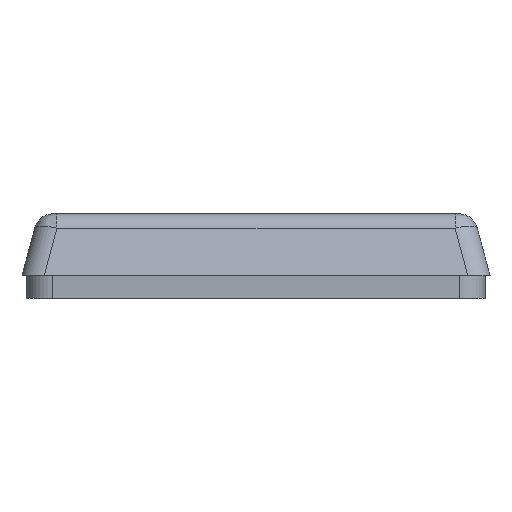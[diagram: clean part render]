
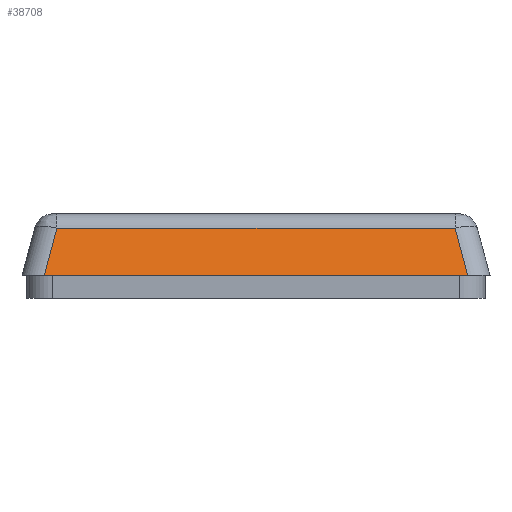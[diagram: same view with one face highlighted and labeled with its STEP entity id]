
A CAD part, left-side view. The second image highlights one B-rep face of the part: STEP entity #38708.
In plain terms, the highlighted planar face has unit normal (-0.966, 0, 0.259).
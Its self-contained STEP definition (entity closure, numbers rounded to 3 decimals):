
#2083=PLANE('',#42451);
#4481=FACE_OUTER_BOUND('',#7091,.T.);
#7091=EDGE_LOOP('',(#33584,#33585,#33586,#33587));
#10659=LINE('',#66297,#13919);
#10662=LINE('',#66303,#13922);
#10663=LINE('',#66334,#13923);
#10665=LINE('',#66338,#13925);
#13919=VECTOR('',#52425,10.);
#13922=VECTOR('',#52432,10.);
#13923=VECTOR('',#52441,10.);
#13925=VECTOR('',#52447,10.);
#18827=VERTEX_POINT('',#66288);
#18830=VERTEX_POINT('',#66295);
#18831=VERTEX_POINT('',#66302);
#18832=VERTEX_POINT('',#66332);
#23941=EDGE_CURVE('',#18830,#18827,#10659,.T.);
#23944=EDGE_CURVE('',#18831,#18827,#10662,.T.);
#23948=EDGE_CURVE('',#18831,#18832,#10663,.T.);
#23950=EDGE_CURVE('',#18830,#18832,#10665,.T.);
#33584=ORIENTED_EDGE('',*,*,#23941,.F.);
#33585=ORIENTED_EDGE('',*,*,#23950,.T.);
#33586=ORIENTED_EDGE('',*,*,#23948,.F.);
#33587=ORIENTED_EDGE('',*,*,#23944,.T.);
#38708=ADVANCED_FACE('',(#4481),#2083,.F.);
#42451=AXIS2_PLACEMENT_3D('',#66337,#52445,#52446);
#52425=DIRECTION('',(0.251,-0.251,0.935));
#52432=DIRECTION('',(0.,1.,0.));
#52441=DIRECTION('',(-0.251,-0.251,-0.935));
#52445=DIRECTION('center_axis',(0.966,0.,-0.259));
#52446=DIRECTION('ref_axis',(-0.259,0.,-0.966));
#52447=DIRECTION('',(0.,-1.,0.));
#66288=CARTESIAN_POINT('',(-72.853,25.955,2.147));
#66295=CARTESIAN_POINT('',(-74.5,27.602,-4.));
#66297=CARTESIAN_POINT('',(-72.767,25.869,2.467));
#66302=CARTESIAN_POINT('',(-72.853,-25.955,2.147));
#66303=CARTESIAN_POINT('',(-72.853,-30.5,2.147));
#66332=CARTESIAN_POINT('',(-74.5,-27.602,-4.));
#66334=CARTESIAN_POINT('',(-70.005,-23.107,12.777));
#66337=CARTESIAN_POINT('Origin',(-74.5,-30.5,-4.));
#66338=CARTESIAN_POINT('',(-74.5,30.5,-4.));
